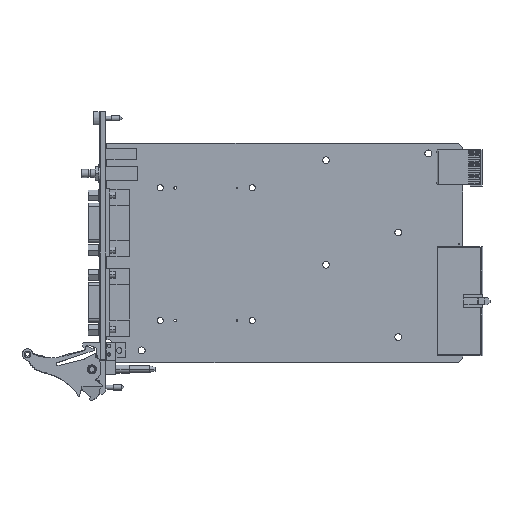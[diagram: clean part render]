
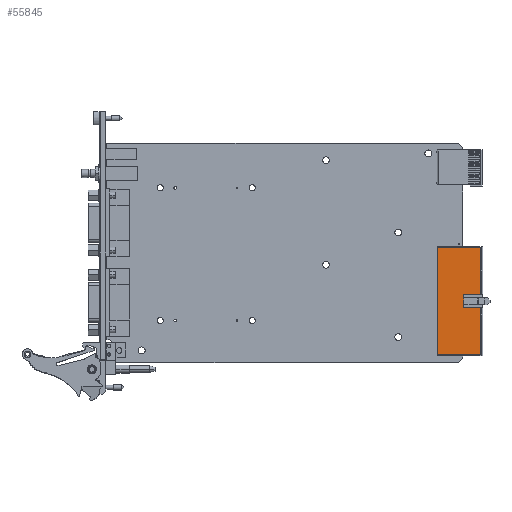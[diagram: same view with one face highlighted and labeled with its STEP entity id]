
A CAD part, top view. The second image highlights one B-rep face of the part: STEP entity #55845.
In plain terms, the highlighted planar face has unit normal (0, 0, 1).
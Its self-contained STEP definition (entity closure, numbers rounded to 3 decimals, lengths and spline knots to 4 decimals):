
#14550=DIRECTION('',(1.,0.,0.));
#14551=VECTOR('',#14550,0.7776);
#14552=CARTESIAN_POINT('',(5.8453,-3.7997,
0.3573));
#14553=LINE('',#14552,#14551);
#14562=DIRECTION('',(1.,0.,0.));
#14563=VECTOR('',#14562,0.7776);
#14564=CARTESIAN_POINT('',(5.8453,-1.8706,
0.3573));
#14565=LINE('',#14564,#14563);
#14886=DIRECTION('',(0.,1.,0.));
#14887=VECTOR('',#14886,0.8446);
#14888=CARTESIAN_POINT('',(6.6229,-3.7997,
0.3573));
#14889=LINE('',#14888,#14887);
#14890=DIRECTION('',(-1.,0.,0.));
#14891=VECTOR('',#14890,0.3031);
#14892=CARTESIAN_POINT('',(6.6229,-2.7151,
0.3573));
#14893=LINE('',#14892,#14891);
#14894=DIRECTION('',(0.,-1.,0.));
#14895=VECTOR('',#14894,0.06);
#14896=CARTESIAN_POINT('',(6.3197,-2.7151,
0.3573));
#14897=LINE('',#14896,#14895);
#14898=DIRECTION('',(0.,-1.,0.));
#14899=VECTOR('',#14898,0.06);
#14900=CARTESIAN_POINT('',(6.3197,-2.8951,
0.3573));
#14901=LINE('',#14900,#14899);
#14902=DIRECTION('',(-1.,0.,0.));
#14903=VECTOR('',#14902,0.3031);
#14904=CARTESIAN_POINT('',(6.6229,-2.9551,
0.3573));
#14905=LINE('',#14904,#14903);
#14906=DIRECTION('',(0.,1.,0.));
#14907=VECTOR('',#14906,1.9291);
#14908=CARTESIAN_POINT('',(5.8453,-3.7997,
0.3573));
#14909=LINE('',#14908,#14907);
#14954=DIRECTION('',(0.,1.,0.));
#14955=VECTOR('',#14954,0.12);
#14956=CARTESIAN_POINT('',(6.3197,-2.8951,
0.3573));
#14957=LINE('',#14956,#14955);
#14978=DIRECTION('',(0.,1.,0.));
#14979=VECTOR('',#14978,0.8446);
#14980=CARTESIAN_POINT('',(6.6229,-2.7151,
0.3573));
#14981=LINE('',#14980,#14979);
#28585=CARTESIAN_POINT('',(5.8453,-3.7997,
0.3573));
#28586=CARTESIAN_POINT('',(6.6229,-3.7997,
0.3573));
#28587=VERTEX_POINT('',#28585);
#28588=VERTEX_POINT('',#28586);
#28589=CARTESIAN_POINT('',(5.8453,-1.8706,
0.3573));
#28590=CARTESIAN_POINT('',(6.6229,-1.8706,
0.3573));
#28591=VERTEX_POINT('',#28589);
#28592=VERTEX_POINT('',#28590);
#28601=CARTESIAN_POINT('',(6.6229,-2.7151,
0.3573));
#28602=CARTESIAN_POINT('',(6.3197,-2.7151,
0.3573));
#28603=VERTEX_POINT('',#28601);
#28604=VERTEX_POINT('',#28602);
#28605=CARTESIAN_POINT('',(6.3197,-2.7751,
0.3573));
#28606=VERTEX_POINT('',#28605);
#28607=CARTESIAN_POINT('',(6.6229,-2.9551,
0.3573));
#28608=CARTESIAN_POINT('',(6.3197,-2.9551,
0.3573));
#28609=VERTEX_POINT('',#28607);
#28610=VERTEX_POINT('',#28608);
#28611=CARTESIAN_POINT('',(6.3197,-2.8951,
0.3573));
#28612=VERTEX_POINT('',#28611);
#55824=CARTESIAN_POINT('',(5.8453,-3.7997,
0.3573));
#55825=DIRECTION('',(0.,0.,1.));
#55826=DIRECTION('',(1.,0.,0.));
#55827=AXIS2_PLACEMENT_3D('',#55824,#55825,#55826);
#55828=PLANE('',#55827);
#55830=ORIENTED_EDGE('',*,*,#55829,.T.);
#55832=ORIENTED_EDGE('',*,*,#55831,.T.);
#55834=ORIENTED_EDGE('',*,*,#55833,.F.);
#55835=ORIENTED_EDGE('',*,*,#55763,.T.);
#55836=ORIENTED_EDGE('',*,*,#55780,.F.);
#55837=ORIENTED_EDGE('',*,*,#55819,.F.);
#55838=ORIENTED_EDGE('',*,*,#55316,.F.);
#55839=ORIENTED_EDGE('',*,*,#55334,.T.);
#55840=ORIENTED_EDGE('',*,*,#55352,.T.);
#55842=ORIENTED_EDGE('',*,*,#55841,.F.);
#55843=EDGE_LOOP('',(#55830,#55832,#55834,#55835,#55836,#55837,#55838,#55839,
#55840,#55842));
#55844=FACE_OUTER_BOUND('',#55843,.F.);
#55845=ADVANCED_FACE('',(#55844),#55828,.T.);
#55316=EDGE_CURVE('',#28587,#28588,#14553,.T.);
#55334=EDGE_CURVE('',#28587,#28591,#14909,.T.);
#55352=EDGE_CURVE('',#28591,#28592,#14565,.T.);
#55763=EDGE_CURVE('',#28612,#28610,#14901,.T.);
#55780=EDGE_CURVE('',#28609,#28610,#14905,.T.);
#55819=EDGE_CURVE('',#28588,#28609,#14889,.T.);
#55829=EDGE_CURVE('',#28603,#28604,#14893,.T.);
#55831=EDGE_CURVE('',#28604,#28606,#14897,.T.);
#55833=EDGE_CURVE('',#28612,#28606,#14957,.T.);
#55841=EDGE_CURVE('',#28603,#28592,#14981,.T.);
